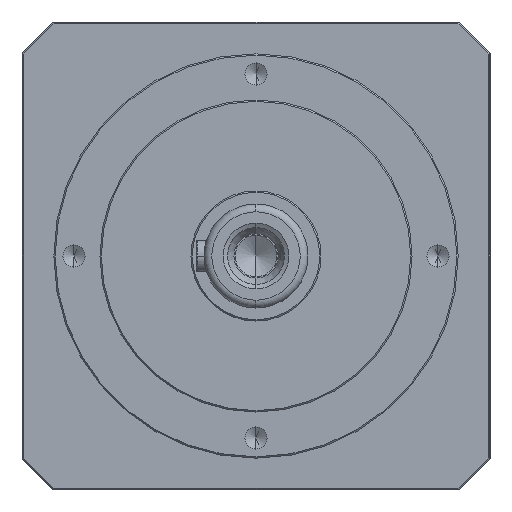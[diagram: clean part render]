
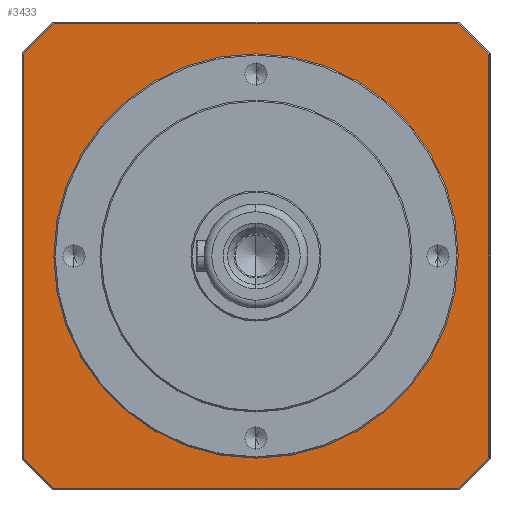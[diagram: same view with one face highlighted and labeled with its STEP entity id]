
A CAD part, left-side view. The second image highlights one B-rep face of the part: STEP entity #3433.
In plain terms, the highlighted planar face has unit normal (-1, 0, 0).
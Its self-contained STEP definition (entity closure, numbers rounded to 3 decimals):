
#12 = CARTESIAN_POINT ( 'NONE',  ( 94.34, 22.992, 247.2 ) ) ;
#29 = AXIS2_PLACEMENT_3D ( 'NONE', #3265, #2193, #3607 ) ;
#31 = DIRECTION ( 'NONE',  ( -1., 0., 0. ) ) ;
#48 = LINE ( 'NONE', #3668, #3537 ) ;
#206 = DIRECTION ( 'NONE',  ( 1., 0., 0. ) ) ;
#318 = CARTESIAN_POINT ( 'NONE',  ( 94.34, 112.492, 324.866 ) ) ;
#415 = VECTOR ( 'NONE', #1762, 1000. ) ;
#445 = VECTOR ( 'NONE', #2749, 1000. ) ;
#454 = CARTESIAN_POINT ( 'NONE',  ( 94.34, 22.992, 247.2 ) ) ;
#478 = ORIENTED_EDGE ( 'NONE', *, *, #4225, .T. ) ;
#479 = CARTESIAN_POINT ( 'NONE',  ( 94.34, 100.658, 157.7 ) ) ;
#526 = FACE_BOUND ( 'NONE', #3852, .T. ) ;
#550 = DIRECTION ( 'NONE',  ( 0., 1., 0. ) ) ;
#579 = CARTESIAN_POINT ( 'NONE',  ( 94.34, -66.508, 325.052 ) ) ;
#589 = DIRECTION ( 'NONE',  ( 0., 1., 0. ) ) ;
#792 = AXIS2_PLACEMENT_3D ( 'NONE', #4265, #4236, #4250 ) ;
#818 = DIRECTION ( 'NONE',  ( -1., 0., 0. ) ) ;
#1077 = VERTEX_POINT ( 'NONE', #3981 ) ;
#1079 = DIRECTION ( 'NONE',  ( 0., 1., 0. ) ) ;
#1119 = CARTESIAN_POINT ( 'NONE',  ( 94.34, 85.992, 247.2 ) ) ;
#1125 = CIRCLE ( 'NONE', #2272, 118.5 ) ;
#1137 = DIRECTION ( 'NONE',  ( 0., -1., 0. ) ) ;
#1174 = DIRECTION ( 'NONE',  ( 0., 1., 0. ) ) ;
#1283 = AXIS2_PLACEMENT_3D ( 'NONE', #12, #31, #2847 ) ;
#1334 = EDGE_LOOP ( 'NONE', ( #3077, #4487, #1793, #1386, #3742, #4469, #478, #4189 ) ) ;
#1386 = ORIENTED_EDGE ( 'NONE', *, *, #4007, .T. ) ;
#1456 = AXIS2_PLACEMENT_3D ( 'NONE', #2295, #206, #550 ) ;
#1473 = CARTESIAN_POINT ( 'NONE',  ( 94.34, -66.508, 324.866 ) ) ;
#1612 = VERTEX_POINT ( 'NONE', #3402 ) ;
#1677 = CARTESIAN_POINT ( 'NONE',  ( 94.34, -54.674, 157.7 ) ) ;
#1713 = CARTESIAN_POINT ( 'NONE',  ( 94.34, 100.844, 336.7 ) ) ;
#1762 = DIRECTION ( 'NONE',  ( 0., 0., 1. ) ) ;
#1793 = ORIENTED_EDGE ( 'NONE', *, *, #3587, .T. ) ;
#1803 = EDGE_CURVE ( 'NONE', #1612, #2920, #3929, .T. ) ;
#1902 = FACE_OUTER_BOUND ( 'NONE', #1334, .T. ) ;
#1993 = EDGE_CURVE ( 'NONE', #3767, #1077, #4279, .T. ) ;
#2034 = DIRECTION ( 'NONE',  ( 0., 0., -1. ) ) ;
#2067 = ORIENTED_EDGE ( 'NONE', *, *, #4030, .T. ) ;
#2102 = EDGE_CURVE ( 'NONE', #1077, #2880, #2206, .T. ) ;
#2185 = EDGE_CURVE ( 'NONE', #3689, #3786, #4387, .T. ) ;
#2193 = DIRECTION ( 'NONE',  ( -1., 0., 0. ) ) ;
#2206 = CIRCLE ( 'NONE', #1283, 118.5 ) ;
#2272 = AXIS2_PLACEMENT_3D ( 'NONE', #454, #2537, #1079 ) ;
#2295 = CARTESIAN_POINT ( 'NONE',  ( 94.34, 22.992, 247.2 ) ) ;
#2310 = PLANE ( 'NONE',  #3461 ) ;
#2383 = LINE ( 'NONE', #579, #415 ) ;
#2449 = ORIENTED_EDGE ( 'NONE', *, *, #1803, .T. ) ;
#2537 = DIRECTION ( 'NONE',  ( -1., 0., 0. ) ) ;
#2541 = LINE ( 'NONE', #3227, #3148 ) ;
#2552 = CARTESIAN_POINT ( 'NONE',  ( 94.34, 22.992, 247.2 ) ) ;
#2612 = EDGE_CURVE ( 'NONE', #4060, #3767, #3448, .T. ) ;
#2639 = VERTEX_POINT ( 'NONE', #479 ) ;
#2749 = DIRECTION ( 'NONE',  ( 0., 1., 0. ) ) ;
#2847 = DIRECTION ( 'NONE',  ( 0., 1., 0. ) ) ;
#2869 = CARTESIAN_POINT ( 'NONE',  ( 94.34, -54.674, 336.7 ) ) ;
#2880 = VERTEX_POINT ( 'NONE', #318 ) ;
#2920 = VERTEX_POINT ( 'NONE', #1119 ) ;
#2976 = CIRCLE ( 'NONE', #792, 63. ) ;
#3077 = ORIENTED_EDGE ( 'NONE', *, *, #1993, .T. ) ;
#3148 = VECTOR ( 'NONE', #1137, 1000. ) ;
#3227 = CARTESIAN_POINT ( 'NONE',  ( 94.34, -54.861, 157.7 ) ) ;
#3265 = CARTESIAN_POINT ( 'NONE',  ( 94.34, 22.992, 247.2 ) ) ;
#3368 = DIRECTION ( 'NONE',  ( -1., 0., 0. ) ) ;
#3386 = CARTESIAN_POINT ( 'NONE',  ( 94.34, 112.492, 169.534 ) ) ;
#3402 = CARTESIAN_POINT ( 'NONE',  ( 94.34, -40.008, 247.2 ) ) ;
#3433 = ADVANCED_FACE ( 'NONE', ( #1902, #526 ), #2310, .T. ) ;
#3448 = CIRCLE ( 'NONE', #4521, 118.5 ) ;
#3461 = AXIS2_PLACEMENT_3D ( 'NONE', #3743, #3368, #589 ) ;
#3506 = VERTEX_POINT ( 'NONE', #3386 ) ;
#3537 = VECTOR ( 'NONE', #2034, 1000. ) ;
#3587 = EDGE_CURVE ( 'NONE', #2880, #3506, #48, .T. ) ;
#3607 = DIRECTION ( 'NONE',  ( 0., 1., 0. ) ) ;
#3622 = CARTESIAN_POINT ( 'NONE',  ( 94.34, -66.508, 169.534 ) ) ;
#3668 = CARTESIAN_POINT ( 'NONE',  ( 94.34, 112.492, 169.348 ) ) ;
#3689 = VERTEX_POINT ( 'NONE', #1677 ) ;
#3742 = ORIENTED_EDGE ( 'NONE', *, *, #3770, .T. ) ;
#3743 = CARTESIAN_POINT ( 'NONE',  ( 94.34, 22.992, 247.2 ) ) ;
#3767 = VERTEX_POINT ( 'NONE', #2869 ) ;
#3770 = EDGE_CURVE ( 'NONE', #2639, #3689, #2541, .T. ) ;
#3786 = VERTEX_POINT ( 'NONE', #3622 ) ;
#3852 = EDGE_LOOP ( 'NONE', ( #2067, #2449 ) ) ;
#3929 = CIRCLE ( 'NONE', #1456, 63. ) ;
#3981 = CARTESIAN_POINT ( 'NONE',  ( 94.34, 100.658, 336.7 ) ) ;
#4007 = EDGE_CURVE ( 'NONE', #3506, #2639, #1125, .T. ) ;
#4030 = EDGE_CURVE ( 'NONE', #2920, #1612, #2976, .T. ) ;
#4060 = VERTEX_POINT ( 'NONE', #1473 ) ;
#4189 = ORIENTED_EDGE ( 'NONE', *, *, #2612, .T. ) ;
#4225 = EDGE_CURVE ( 'NONE', #3786, #4060, #2383, .T. ) ;
#4236 = DIRECTION ( 'NONE',  ( 1., 0., 0. ) ) ;
#4250 = DIRECTION ( 'NONE',  ( 0., 1., 0. ) ) ;
#4265 = CARTESIAN_POINT ( 'NONE',  ( 94.34, 22.992, 247.2 ) ) ;
#4279 = LINE ( 'NONE', #1713, #445 ) ;
#4387 = CIRCLE ( 'NONE', #29, 118.5 ) ;
#4469 = ORIENTED_EDGE ( 'NONE', *, *, #2185, .T. ) ;
#4487 = ORIENTED_EDGE ( 'NONE', *, *, #2102, .T. ) ;
#4521 = AXIS2_PLACEMENT_3D ( 'NONE', #2552, #818, #1174 ) ;
